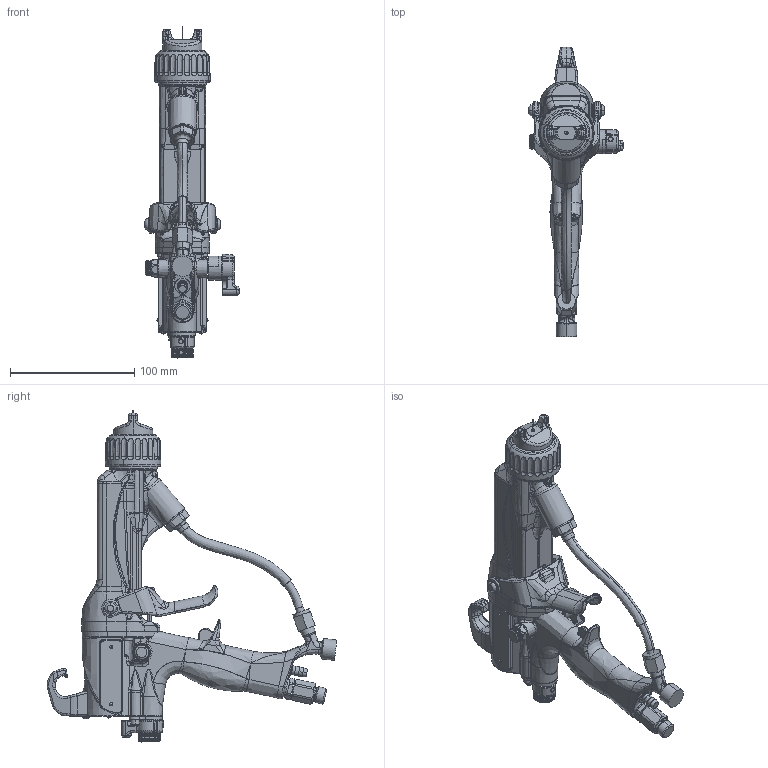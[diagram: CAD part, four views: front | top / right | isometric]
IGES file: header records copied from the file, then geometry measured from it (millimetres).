
Start section:  PTC IGES file: l85t50-en-f.igs
Global section: file name: l85t50-en-f.igs; native system: Creo Parametric by PTC Inc.; preprocessor: 2019030; author: qusrh3; organization: Unknown; date: 20200518.163709; units: inch
Bounding box: 75.86 x 233.22 x 267.21 mm (x, y, z)
Surface area: 95413.2 mm2 (no closed solid volume)
Topology: 0 solids, 0 shells, 2473 faces, 12155 edges, 12146 vertices
Faces by surface type: bspline 1346, revolution 1119, extrusion 8
